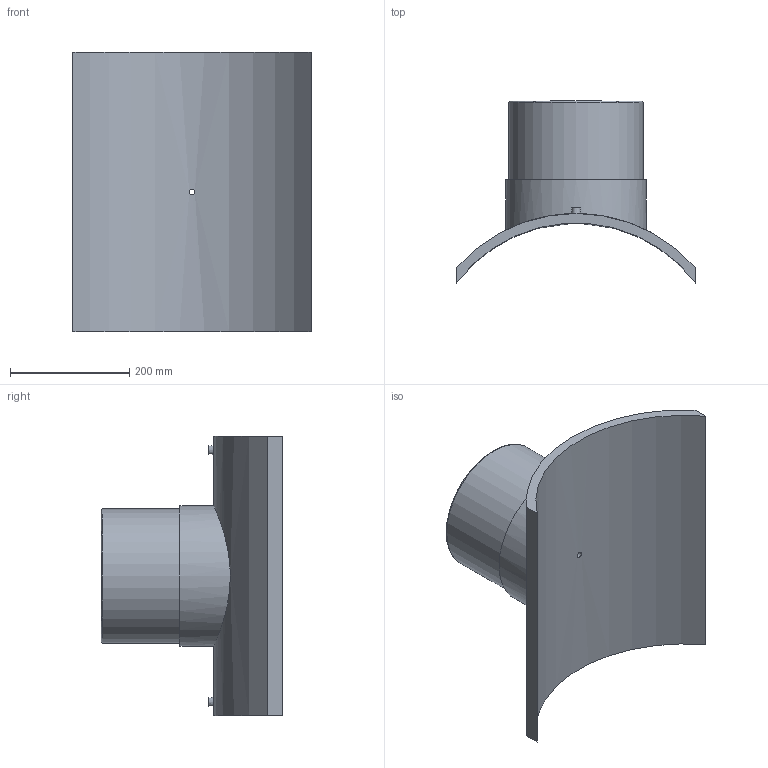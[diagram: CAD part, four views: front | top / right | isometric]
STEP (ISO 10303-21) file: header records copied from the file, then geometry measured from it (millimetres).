
FILE_DESCRIPTION(/* description */ ('PLASSON BRANCH SADDLE 500x225'),/* implementation_level */ '2;1');
FILE_NAME(/* name */ 'C:\Dropbox\KIMPROJECTS-Inventor 2019\99-16-3568-Processing\ElectroFusion Fittings\495803\stp\495803500225T.stp',/* time_stamp */ '2024-04-04T11:51:56+02:00',/* author */ ('KIM'),/* organization */ (''),/* preprocessor_version */ 'ST-DEVELOPER v17.2',/* originating_system */ 'Autodesk Inventor 2019',/* authorisation */ '');
FILE_SCHEMA (('AUTOMOTIVE_DESIGN { 1 0 10303 214 3 1 1 }'));
Length unit declared in the file: millimetre
Products named in the file (1): 495803500225T
Bounding box: 400 x 305 x 470 mm (x, y, z)
Volume: 6586905.7 mm3; surface area: 733953.7 mm2
Topology: 1 solids, 1 shells, 29 faces, 60 edges, 43 vertices
Faces by surface type: plane 13, cylinder 12, torus 2, cone 2
Full cylindrical faces by diameter (mm): 4 x2, 9.6 x1, 10 x2, 16 x1, 180 x1, 225 x1, 236.25 x1
Entity records: 1086 total; most frequent: CARTESIAN_POINT 400, DIRECTION 139, ORIENTED_EDGE 120, EDGE_CURVE 60, AXIS2_PLACEMENT_3D 60, VERTEX_POINT 43, EDGE_LOOP 41, CIRCLE 30
